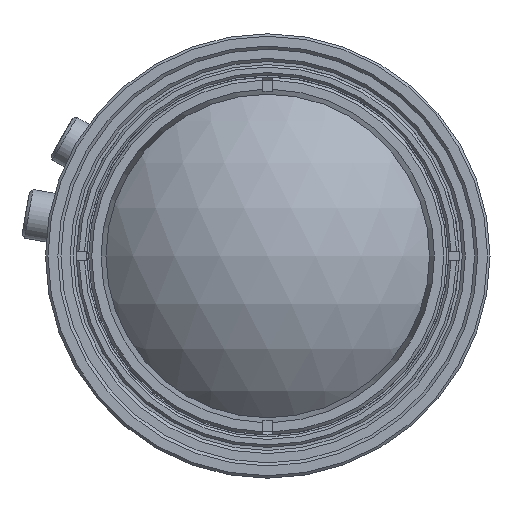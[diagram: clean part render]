
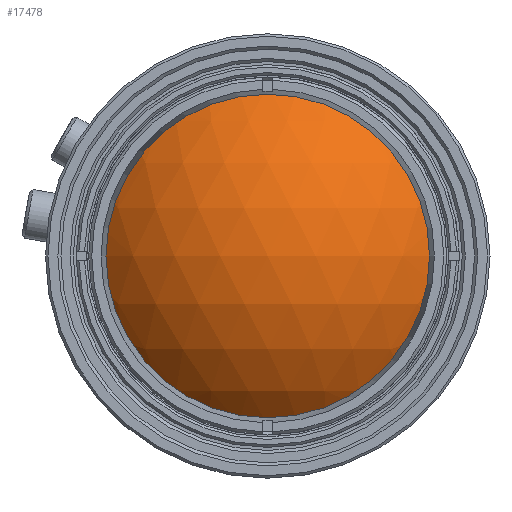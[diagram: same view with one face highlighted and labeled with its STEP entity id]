
A CAD part, left-side view. The second image highlights one B-rep face of the part: STEP entity #17478.
In plain terms, the highlighted spherical face has radius 18.114 mm.
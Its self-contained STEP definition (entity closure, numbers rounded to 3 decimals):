
#295=SPHERICAL_SURFACE('',#20211,18.114);
#5139=ORIENTED_EDGE('',*,*,#7643,.T.);
#7643=EDGE_CURVE('',#9422,#9422,#10886,.T.);
#9422=VERTEX_POINT('',#30979);
#10886=CIRCLE('',#20212,13.75);
#13142=EDGE_LOOP('',(#5139));
#15676=FACE_BOUND('',#13142,.T.);
#17478=ADVANCED_FACE('',(#15676),#295,.T.);
#20211=AXIS2_PLACEMENT_3D('',#30977,#25320,#25321);
#20212=AXIS2_PLACEMENT_3D('',#30978,#25322,#25323);
#25320=DIRECTION('',(0.,0.,1.));
#25321=DIRECTION('',(1.,0.,0.));
#25322=DIRECTION('',(-1.,0.,0.));
#25323=DIRECTION('',(0.,1.,0.));
#30977=CARTESIAN_POINT('',(-70.493,0.,0.));
#30978=CARTESIAN_POINT('',(-82.285,0.,0.));
#30979=CARTESIAN_POINT('',(-82.285,13.75,0.));
